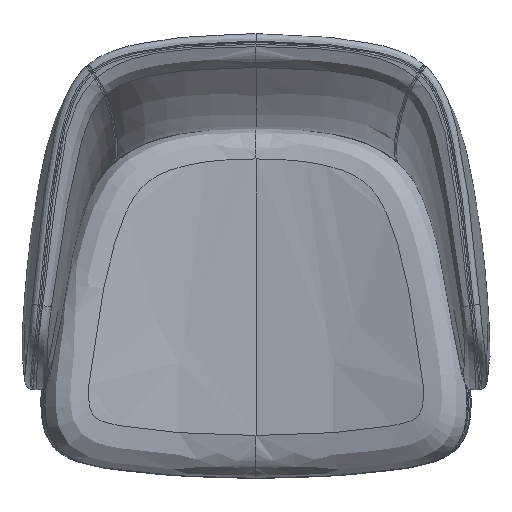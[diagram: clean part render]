
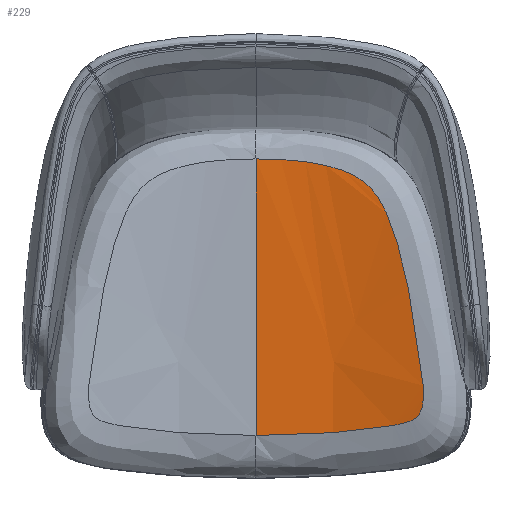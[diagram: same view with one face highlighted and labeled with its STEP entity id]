
A CAD part, top view. The second image highlights one B-rep face of the part: STEP entity #229.
In plain terms, the highlighted free-form (B-spline) face has degree [2, 1] with [3, 2] control points.
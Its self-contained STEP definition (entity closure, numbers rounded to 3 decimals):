
#229=ADVANCED_FACE('',(#348),#1429,.T.);
#348=FACE_OUTER_BOUND('',#467,.T.);
#467=EDGE_LOOP('',(#886,#887));
#886=ORIENTED_EDGE('',*,*,#1167,.T.);
#887=ORIENTED_EDGE('',*,*,#1166,.F.);
#1166=EDGE_CURVE('',#1389,#1390,#1644,.T.);
#1167=EDGE_CURVE('',#1389,#1390,#1645,.T.);
#1389=VERTEX_POINT('',#25309);
#1390=VERTEX_POINT('',#25310);
#1429=(
BOUNDED_SURFACE()
B_SPLINE_SURFACE(2,1,((#24399,#24400),(#24401,#24402),(#24403,#24404)),
 .UNSPECIFIED.,.F.,.F.,.F.)
B_SPLINE_SURFACE_WITH_KNOTS((3,3),(2,2),(0.,564.196),(0.,519.874),
 .UNSPECIFIED.)
GEOMETRIC_REPRESENTATION_ITEM()
RATIONAL_B_SPLINE_SURFACE(((1.,1.),(0.904,0.904),
(1.,1.)))
REPRESENTATION_ITEM('')
SURFACE()
);
#1644=B_SPLINE_CURVE_WITH_KNOTS('',1,(#25315,#25316),.UNSPECIFIED.,.F.,
 .F.,(2,2),(85.522,440.522),.UNSPECIFIED.);
#1645=B_SPLINE_CURVE_WITH_KNOTS('',3,(#25317,#25318,#25319,#25320,#25321,
#25322,#25323,#25324,#25325,#25326,#25327,#25328,#25329,#25330,#25331,#25332,
#25333,#25334,#25335,#25336,#25337,#25338,#25339,#25340,#25341,#25342,#25343,
#25344,#25345,#25346,#25347,#25348,#25349,#25350,#25351,#25352,#25353,#25354,
#25355,#25356,#25357,#25358,#25359,#25360,#25361,#25362,#25363,#25364,#25365,
#25366,#25367,#25368,#25369,#25370,#25371,#25372,#25373,#25374,#25375,#25376,
#25377,#25378,#25379,#25380,#25381),.UNSPECIFIED.,.F.,.F.,(4,2,2,2,2,1,
1,1,2,2,2,2,2,2,1,1,1,2,2,2,2,2,2,1,1,1,2,2,1,1,1,2,2,2,1,1,1,2,2,4),(0.,
104.587,156.88,183.027,196.1,202.637,
209.173,215.71,229.003,238.918,248.832,
258.747,268.662,278.577,283.534,288.491,
293.449,302.826,317.162,345.832,403.172,
460.512,489.182,503.517,517.852,532.187,
552.207,569.385,578.515,586.562,594.609,
602.656,618.75,634.843,642.89,650.937,
658.984,679.714,708.491,766.045),
 .UNSPECIFIED.);
#24399=CARTESIAN_POINT('',(-273.052,-291.373,521.171));
#24400=CARTESIAN_POINT('',(-273.052,228.502,521.171));
#24401=CARTESIAN_POINT('',(0.,-291.373,392.364));
#24402=CARTESIAN_POINT('',(0.,228.502,392.364));
#24403=CARTESIAN_POINT('',(273.052,-291.373,521.171));
#24404=CARTESIAN_POINT('',(273.052,228.502,521.171));
#25309=CARTESIAN_POINT('',(0.,-205.851,460.));
#25310=CARTESIAN_POINT('',(0.,149.149,460.));
#25315=CARTESIAN_POINT('',(0.,-205.851,460.));
#25316=CARTESIAN_POINT('',(0.,149.149,460.));
#25317=CARTESIAN_POINT('',(0.,-205.851,460.));
#25318=CARTESIAN_POINT('',(32.595,-205.851,459.998));
#25319=CARTESIAN_POINT('',(65.191,-204.707,462.498));
#25320=CARTESIAN_POINT('',(113.393,-201.245,469.916));
#25321=CARTESIAN_POINT('',(129.348,-199.803,472.998));
#25322=CARTESIAN_POINT('',(152.995,-196.948,478.504));
#25323=CARTESIAN_POINT('',(160.828,-195.874,480.485));
#25324=CARTESIAN_POINT('',(172.477,-193.946,483.666));
#25325=CARTESIAN_POINT('',(176.325,-193.264,484.756));
#25326=CARTESIAN_POINT('',(182.126,-192.091,486.459));
#25327=CARTESIAN_POINT('',(185.728,-191.337,487.529));
#25328=CARTESIAN_POINT('',(192.209,-189.573,489.538));
#25329=CARTESIAN_POINT('',(195.735,-188.386,490.661));
#25330=CARTESIAN_POINT('',(199.266,-186.96,491.807));
#25331=CARTESIAN_POINT('',(202.779,-184.998,492.972));
#25332=CARTESIAN_POINT('',(204.261,-184.016,493.469));
#25333=CARTESIAN_POINT('',(206.947,-181.74,494.381));
#25334=CARTESIAN_POINT('',(208.168,-180.437,494.8));
#25335=CARTESIAN_POINT('',(210.246,-177.534,495.519));
#25336=CARTESIAN_POINT('',(211.107,-175.946,495.819));
#25337=CARTESIAN_POINT('',(212.491,-172.616,496.305));
#25338=CARTESIAN_POINT('',(213.019,-170.876,496.491));
#25339=CARTESIAN_POINT('',(213.834,-167.346,496.779));
#25340=CARTESIAN_POINT('',(214.124,-165.534,496.883));
#25341=CARTESIAN_POINT('',(214.453,-162.865,496.999));
#25342=CARTESIAN_POINT('',(214.64,-160.854,497.066));
#25343=CARTESIAN_POINT('',(214.8,-158.871,497.123));
#25344=CARTESIAN_POINT('',(215.033,-151.876,497.206));
#25345=CARTESIAN_POINT('',(214.909,-147.514,497.162));
#25346=CARTESIAN_POINT('',(214.619,-139.821,497.058));
#25347=CARTESIAN_POINT('',(214.314,-135.233,496.95));
#25348=CARTESIAN_POINT('',(213.152,-121.424,496.538));
#25349=CARTESIAN_POINT('',(212.076,-112.257,496.158));
#25350=CARTESIAN_POINT('',(208.37,-84.822,494.865));
#25351=CARTESIAN_POINT('',(205.301,-66.627,493.811));
#25352=CARTESIAN_POINT('',(198.557,-30.368,491.57));
#25353=CARTESIAN_POINT('',(194.856,-12.302,490.369));
#25354=CARTESIAN_POINT('',(188.523,14.609,488.392));
#25355=CARTESIAN_POINT('',(186.28,23.534,487.704));
#25356=CARTESIAN_POINT('',(182.602,36.878,486.601));
#25357=CARTESIAN_POINT('',(180.108,45.581,485.86));
#25358=CARTESIAN_POINT('',(175.69,59.26,484.582));
#25359=CARTESIAN_POINT('',(171.082,71.736,483.283));
#25360=CARTESIAN_POINT('',(167.133,80.889,482.203));
#25361=CARTESIAN_POINT('',(162.426,90.325,480.95));
#25362=CARTESIAN_POINT('',(160.048,94.606,480.329));
#25363=CARTESIAN_POINT('',(155.992,100.878,479.3));
#25364=CARTESIAN_POINT('',(153.227,104.855,478.607));
#25365=CARTESIAN_POINT('',(148.585,110.435,477.481));
#25366=CARTESIAN_POINT('',(144.078,115.015,476.422));
#25367=CARTESIAN_POINT('',(140.78,117.901,475.673));
#25368=CARTESIAN_POINT('',(135.703,121.987,474.543));
#25369=CARTESIAN_POINT('',(132.099,124.439,473.77));
#25370=CARTESIAN_POINT('',(124.593,128.815,472.233));
#25371=CARTESIAN_POINT('',(120.672,130.726,471.466));
#25372=CARTESIAN_POINT('',(114.663,133.23,470.352));
#25373=CARTESIAN_POINT('',(110.528,134.808,469.607));
#25374=CARTESIAN_POINT('',(104.58,136.779,468.59));
#25375=CARTESIAN_POINT('',(93.571,139.98,466.83));
#25376=CARTESIAN_POINT('',(85.134,141.89,465.658));
#25377=CARTESIAN_POINT('',(70.3,144.746,463.813));
#25378=CARTESIAN_POINT('',(61.607,146.002,462.912));
#25379=CARTESIAN_POINT('',(35.337,148.719,460.734));
#25380=CARTESIAN_POINT('',(17.656,149.155,459.999));
#25381=CARTESIAN_POINT('',(0.,149.149,460.));
